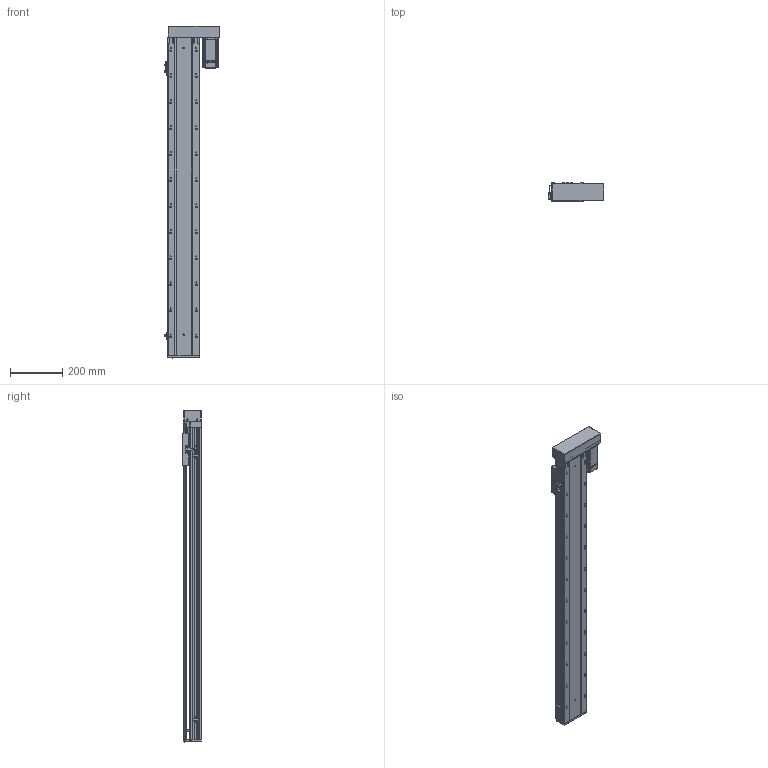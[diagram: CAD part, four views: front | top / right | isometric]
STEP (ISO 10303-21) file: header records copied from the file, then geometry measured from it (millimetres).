
FILE_DESCRIPTION (( 'STEP AP203' ), '1' );
FILE_NAME ('RY120-L2020-1000-RK.SLDASM_1000.step', '2021-03-12T07:29:39', ( '盈信电脑' ), ( '东莞市道滘镇水果街19号' ), 'SwSTEP 2.0', 'SolidWorks 2012', '' );
FILE_SCHEMA (( 'CONFIG_CONTROL_DESIGN' ));
Products named in the file (15): RY120-L2020-1000-RK.SLDASM_1000; RY120-400W萇儂傷-酘衵殏_450; 侂狟400W侜督萇儂; RY120蛌殏萇儂欶; 15; RY120酘殏萇儂假蚾啣; RY120外置感应片(140共用）; RY120转拆电端丝杆支撑座(20丝杆，7002轴承); 覜茼ん672; 滅袉蝶18-10; 滅袉蝶18-24; RY120綴裔啣; RY120-1000-RK蛌殏倰第奻裔啣_1000; RY120-1000-RK蛌殏倰第菁釱_1000; RY120臏賑輸(20蹟譫)
Assembly tree (17 placements, depth 4):
  RY120-L2020-1000-RK.SLDASM_1000
    RY120-1000-RK蛌殏倰第菁釱_1000
    RY120-1000-RK蛌殏倰第奻裔啣_1000
    RY120臏賑輸(20蹟譫)
    RY120綴裔啣
    覜茼ん672  x3
    滅袉蝶18-10
    滅袉蝶18-24  x2
    RY120外置感应片(140共用）
    RY120转拆电端丝杆支撑座(20丝杆，7002轴承)
    RY120-400W萇儂傷-酘衵殏_450
      RY120酘殏萇儂假蚾啣
      侂狟400W侜督萇儂
        15
      RY120蛌殏萇儂欶
Bounding box: 214.2 x 73 x 1275 mm (x, y, z)
Volume: 3561825.7 mm3; surface area: 1328318.8 mm2
Topology: 16 solids, 16 shells, 2694 faces, 7463 edges, 4772 vertices
Faces by surface type: plane 1266, cylinder 1070, cone 253, bspline 105
Entity records: 90849 total; most frequent: CARTESIAN_POINT 26379, ORIENTED_EDGE 13566, DIRECTION 12371, EDGE_CURVE 6783, VERTEX_POINT 4440, AXIS2_PLACEMENT_3D 4165, VECTOR 4041, LINE 4041
